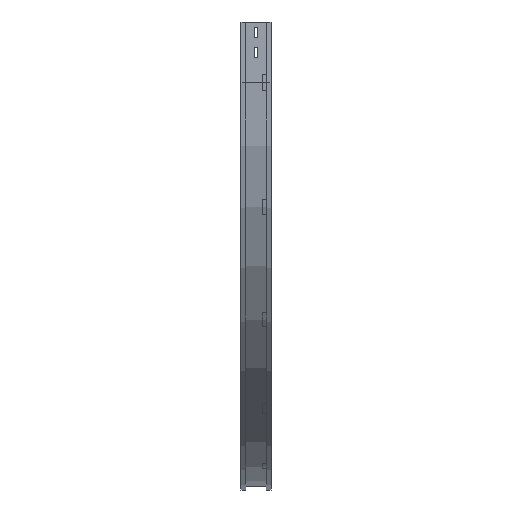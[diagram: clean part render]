
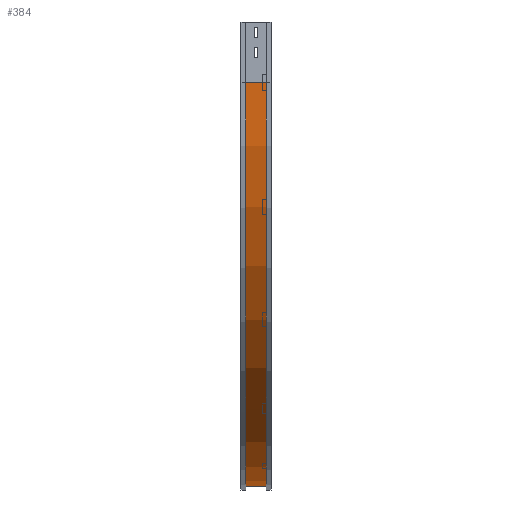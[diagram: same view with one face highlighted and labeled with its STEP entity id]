
A CAD part, left-side view. The second image highlights one B-rep face of the part: STEP entity #384.
In plain terms, the highlighted cylindrical face has radius 1000 mm (diameter 2000 mm), a partial arc.
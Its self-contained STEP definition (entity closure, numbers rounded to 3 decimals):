
#47 = VECTOR ( 'NONE', #431, 1000. ) ;
#384 = ADVANCED_FACE ( 'NONE', ( #905 ), #2499, .T. ) ;
#396 = CARTESIAN_POINT ( 'NONE',  ( 1009., 63., -1150. ) ) ;
#431 = DIRECTION ( 'NONE',  ( 0., -1., 0. ) ) ;
#629 = CIRCLE ( 'NONE', #2967, 1000. ) ;
#701 = DIRECTION ( 'NONE',  ( 0., -1., 0. ) ) ;
#749 = EDGE_CURVE ( 'NONE', #3001, #805, #1734, .T. ) ;
#805 = VERTEX_POINT ( 'NONE', #2397 ) ;
#905 = FACE_OUTER_BOUND ( 'NONE', #2564, .T. ) ;
#1165 = EDGE_CURVE ( 'NONE', #2933, #1670, #2504, .T. ) ;
#1202 = ORIENTED_EDGE ( 'NONE', *, *, #2763, .F. ) ;
#1375 = DIRECTION ( 'NONE',  ( -1., 0., 0. ) ) ;
#1484 = CARTESIAN_POINT ( 'NONE',  ( 1009., 12., -1150. ) ) ;
#1670 = VERTEX_POINT ( 'NONE', #2565 ) ;
#1734 = LINE ( 'NONE', #1484, #2980 ) ;
#1764 = CARTESIAN_POINT ( 'NONE',  ( 9., 63., -150. ) ) ;
#1874 = DIRECTION ( 'NONE',  ( -1., 0., 0. ) ) ;
#1926 = ORIENTED_EDGE ( 'NONE', *, *, #749, .T. ) ;
#2064 = CARTESIAN_POINT ( 'NONE',  ( 1009., 63., -150. ) ) ;
#2131 = AXIS2_PLACEMENT_3D ( 'NONE', #2604, #3273, #3009 ) ;
#2228 = CIRCLE ( 'NONE', #2687, 1000. ) ;
#2371 = ORIENTED_EDGE ( 'NONE', *, *, #2682, .T. ) ;
#2397 = CARTESIAN_POINT ( 'NONE',  ( 1009., 12., -1150. ) ) ;
#2499 = CYLINDRICAL_SURFACE ( 'NONE', #2131, 1000. ) ;
#2504 = LINE ( 'NONE', #3294, #47 ) ;
#2564 = EDGE_LOOP ( 'NONE', ( #1202, #2999, #2371, #1926 ) ) ;
#2565 = CARTESIAN_POINT ( 'NONE',  ( 9., 12., -150. ) ) ;
#2604 = CARTESIAN_POINT ( 'NONE',  ( 1009., 0., -150. ) ) ;
#2682 = EDGE_CURVE ( 'NONE', #2933, #3001, #2228, .T. ) ;
#2687 = AXIS2_PLACEMENT_3D ( 'NONE', #2064, #3441, #1874 ) ;
#2735 = CARTESIAN_POINT ( 'NONE',  ( 1009., 12., -150. ) ) ;
#2763 = EDGE_CURVE ( 'NONE', #1670, #805, #629, .T. ) ;
#2933 = VERTEX_POINT ( 'NONE', #1764 ) ;
#2967 = AXIS2_PLACEMENT_3D ( 'NONE', #2735, #3228, #1375 ) ;
#2980 = VECTOR ( 'NONE', #701, 1000. ) ;
#2999 = ORIENTED_EDGE ( 'NONE', *, *, #1165, .F. ) ;
#3001 = VERTEX_POINT ( 'NONE', #396 ) ;
#3009 = DIRECTION ( 'NONE',  ( 0., 0., -1. ) ) ;
#3228 = DIRECTION ( 'NONE',  ( 0., -1., 0. ) ) ;
#3273 = DIRECTION ( 'NONE',  ( 0., -1., 0. ) ) ;
#3294 = CARTESIAN_POINT ( 'NONE',  ( 9., 12., -150. ) ) ;
#3441 = DIRECTION ( 'NONE',  ( 0., -1., 0. ) ) ;
